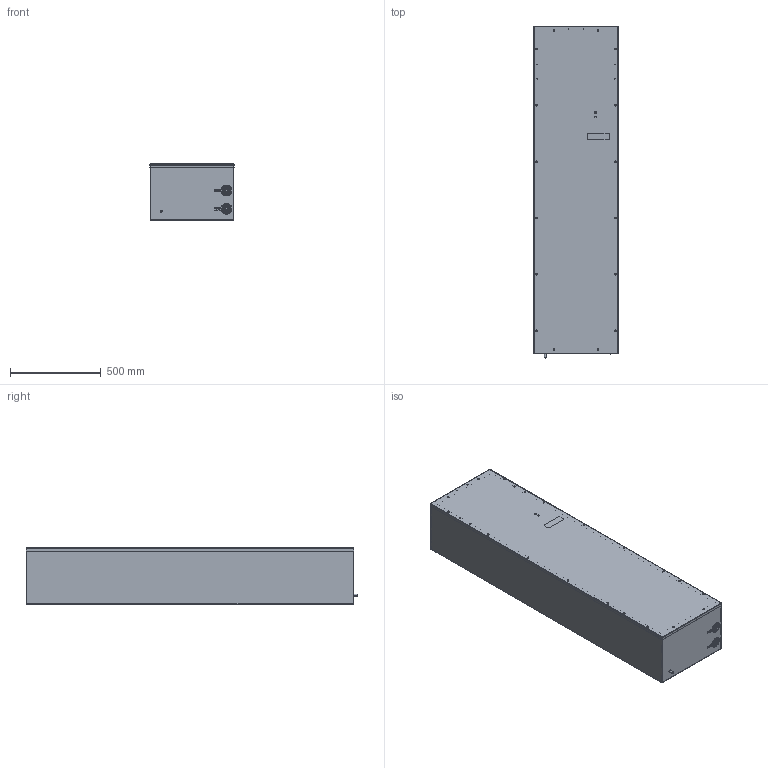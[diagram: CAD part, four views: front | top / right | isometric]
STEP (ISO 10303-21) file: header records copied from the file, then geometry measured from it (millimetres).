
FILE_DESCRIPTION (( 'STEP AP214' ), '1' );
FILE_NAME ('PWS 7702_230V.STEP', '2010-11-17T10:21:14', ( ' ' ), ( ' ' ), 'SwSTEP 2.0', 'SolidWorks 2010', '' );
FILE_SCHEMA (( 'AUTOMOTIVE_DESIGN' ));
Length unit declared in the file: millimetre
Products named in the file (38): Schild E-Kennzeichnung_Schild X54-3; Schild E-Kennzeichnung-3; 11189-420-085000066-2; Federringe - DIN 127_020200110  Federring B4,0 St zn  DIN 127-3; Flachkopfschraube mit Kreutzschlitz - DIN EN ISO 7045_ISO 7045 - M4 x 8 - Z --- 8N-3; 11189-294-2; 11189-420-085000065-2; Blindniet_020140240  4.8x16.9 K15.6-3; 11189-411-1; 11189-433-2; Blechschraube mit Linsenkopf und Kreuzschlitz - DIN 7981_020100655 Schraube 4.2x13 St zn  DIN 7981-3; 11189-549-2; PWS Schottverschr.-3; 30230-040-3; Blechschraube mit Linsenkopf und Kreuzschlitz - DIN 7981_020100661 Schraube 4.2x16 St zn  DIN 7981-3; 30197-011-1; PWS 1_2-Mutter-3; 020142110_Flachstecker_-2; Scheibe unverlierbar-3; 085110010  Erdungssymbol Ø8-2; 30043-015-3; 30197-012-3; PWS 7702_230V; 025510035_Erdungsfahne 6-fach-3; 11189-481-3; 30197-039-3; 020102025  PT.LIKO VZ 3,5x10 Kopf Ø5-3; 025500841 Wago 231-603_019-000-2; 025416705 Wago 231-605_019-000-3; Flachkopfschraube mit Kreutzschlitz - DIN EN ISO 7045_ISO 7045 - M3 x 6 - Z --- 6N-3; Sicherungsscheibe Schnorr_020200370  S3 St Schnorr-3; Blindnietmutter  Sechskant geschlossen-3; Blindniet_020103030  3.2x6.1 K7.6-3; 11285-035-3; Blindnietmutter  Sechskant geschlossen_020140024 M8 6kt geschlossen St-3; Blindniet-3; Dichtring Gasfalit-2; Blindnietmutter  Sechskant offen_020140014 M4x10,5 6kt offen A2-2
Assembly tree (123 placements, depth 2):
  PWS 7702_230V
    Blechschraube mit Linsenkopf und Kreuzschlitz - DIN 7981_020100661 Schraube 4.2x16 St zn  DIN 7981-3  x16
    PWS 1_2-Mutter-3  x2
    Blechschraube mit Linsenkopf und Kreuzschlitz - DIN 7981_020100655 Schraube 4.2x13 St zn  DIN 7981-3  x4
    Blindniet_020140240  4.8x16.9 K15.6-3  x7
    Sicherungsscheibe Schnorr_020200370  S3 St Schnorr-3  x2
    020102025  PT.LIKO VZ 3,5x10 Kopf Ø5-3  x4
    Federringe - DIN 127_020200110  Federring B4,0 St zn  DIN 127-3  x6
    30043-015-3
    11189-411-1
    Blindniet-3  x11
    Scheibe unverlierbar-3  x16
    11285-035-3  x2
    020142110_Flachstecker_-2
    Blindnietmutter  Sechskant geschlossen-3  x10
    025510035_Erdungsfahne 6-fach-3
    Blindnietmutter  Sechskant offen_020140014 M4x10,5 6kt offen A2-2  x6
    Dichtring Gasfalit-2
    Blindniet_020103030  3.2x6.1 K7.6-3  x4
    11189-420-085000065-2
    30197-011-1
    Flachkopfschraube mit Kreutzschlitz - DIN EN ISO 7045_ISO 7045 - M4 x 8 - Z --- 8N-3  x6
    PWS Schottverschr.-3  x2
    11189-481-3
    Schild E-Kennzeichnung_Schild X54-3
    Flachkopfschraube mit Kreutzschlitz - DIN EN ISO 7045_ISO 7045 - M3 x 6 - Z --- 6N-3  x2
    025416705 Wago 231-605_019-000-3
    30197-012-3
    11189-294-2
    085110010  Erdungssymbol Ø8-2
    30230-040-3  x2
    11189-433-2
    11189-420-085000066-2
    30197-039-3
    Schild E-Kennzeichnung-3
    Blindnietmutter  Sechskant geschlossen_020140024 M8 6kt geschlossen St-3  x2
    025500841 Wago 231-603_019-000-2
    11189-549-2
Bounding box: 464 x 1827 x 317.05 mm (x, y, z)
Volume: 3129351.8 mm3; surface area: 6251707.8 mm2
Topology: 137 solids, 137 shells, 4926 faces, 12515 edges, 7972 vertices
Faces by surface type: plane 2775, cylinder 877, bspline 782, cone 490, torus 2
Entity records: 126806 total; most frequent: CARTESIAN_POINT 42269, ORIENTED_EDGE 13968, DIRECTION 11779, EDGE_CURVE 6984, LINE 4793, VECTOR 4793, VERTEX_POINT 4535, AXIS2_PLACEMENT_3D 3493
